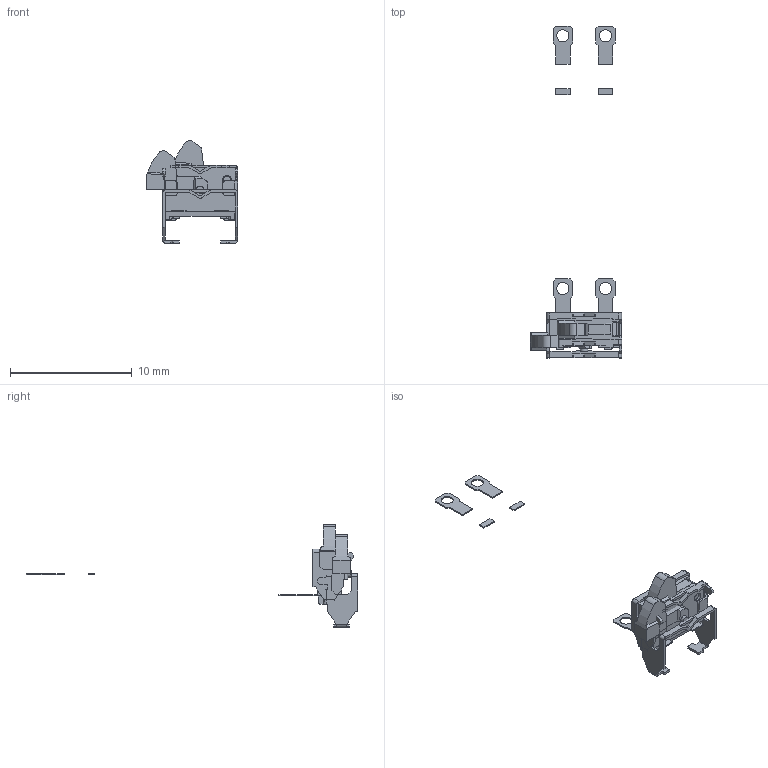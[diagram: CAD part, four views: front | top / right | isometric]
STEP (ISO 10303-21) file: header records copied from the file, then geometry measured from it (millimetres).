
FILE_DESCRIPTION( ( 'Unknown' ), '1' );
FILE_NAME( '//Ntcw022/edgesv/fsw/ユーザ提出用データ/ﾃﾞｨﾃｸﾀｰｽｲｯﾁ/ESE22/ese22mh57-std-sk.stp', 'Unknown', ( 'Unknown' ), ( 'Unknown' ), 'PSStep 10.0', 'Unknown', ' ' );
FILE_SCHEMA( ( 'AUTOMOTIVE_DESIGN { 1 0 10303 214 1 1 1 1 }' ) );
Length unit declared in the file: millimetre
Products named in the file (8): Assem1; e22cs4bb-mh-r-pc-r00; sw-3d-131-e22ts17-mh-sk-r00; sw-3d-131-e22tf10a-mh-sk-r00.par; sw-3d-131-e22lv12a-sk-r14
Bounding box: 7.49 x 27.26 x 8.42 mm (x, y, z)
Volume: 121.5 mm3; surface area: 432 mm2
Topology: 14 solids, 14 shells, 582 faces, 1632 edges, 1048 vertices
Faces by surface type: plane 412, cylinder 154, bspline 8, sphere 8
Full cylindrical faces by diameter (mm): 0.6 x2, 0.7 x2, 1 x4
Entity records: 11448 total; most frequent: CARTESIAN_POINT 1738, ORIENTED_EDGE 1602, DIRECTION 1549, EDGE_CURVE 801, LINE 631, VECTOR 631, VERTEX_POINT 522, AXIS2_PLACEMENT_3D 459
